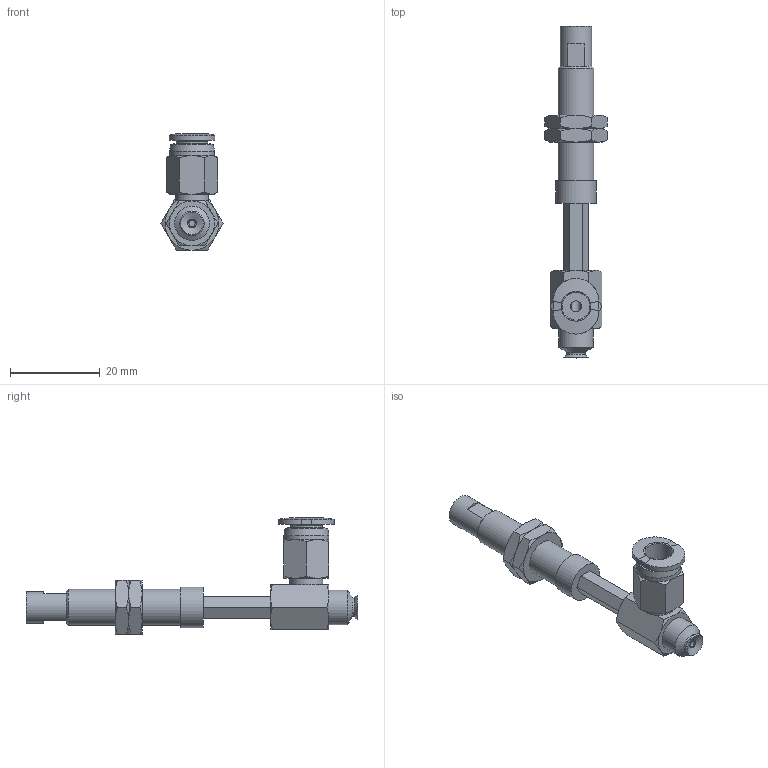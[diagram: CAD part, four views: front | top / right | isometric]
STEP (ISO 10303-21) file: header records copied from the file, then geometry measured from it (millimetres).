
FILE_DESCRIPTION(('STEP AP203'),'1');
FILE_NAME('-O.stp','2025-04-10T02:50:01',(' '),(' '),'Spatial InterOp 3D',' ',' ');
FILE_SCHEMA(('CONFIG_CONTROL_DESIGN'));
Length unit declared in the file: millimetre
Products named in the file (7): BNABPFYH-5A-15-※-O; CONNECTOR-H-5A-15; Nut-5A-15-h; NAPFTH-5A-15-FBODY; NAPFTH-5A-15-MBODY; BPFG-5A-※; PC-C_06-M5
Assembly tree (7 placements, depth 2):
  BNABPFYH-5A-15-※-O
    CONNECTOR-H-5A-15
    Nut-5A-15-h  x2
    NAPFTH-5A-15-FBODY
    NAPFTH-5A-15-MBODY
    BPFG-5A-※
    PC-C_06-M5
Bounding box: 13.86 x 74 x 25.98 mm (x, y, z)
Volume: 3806.4 mm3; surface area: 5775.2 mm2
Topology: 6 solids, 9 shells, 189 faces, 402 edges, 244 vertices
Faces by surface type: plane 79, cone 67, cylinder 24, torus 11, bspline 5, revolution 3
Full cylindrical faces by diameter (mm): 1.4 x1, 2 x1, 4 x4, 4.134 x2, 5 x2, 6 x2, 7 x2, 7.188 x2, 7.4 x1, 7.7 x1, 8 x1, 8.2 x1, 9 x1, 10 x1
Entity records: 4959 total; most frequent: CARTESIAN_POINT 1398, DIRECTION 659, ORIENTED_EDGE 584, EDGE_CURVE 294, AXIS2_PLACEMENT_3D 281, EDGE_LOOP 242, VERTEX_POINT 206, FACE_OUTER_BOUND 139
